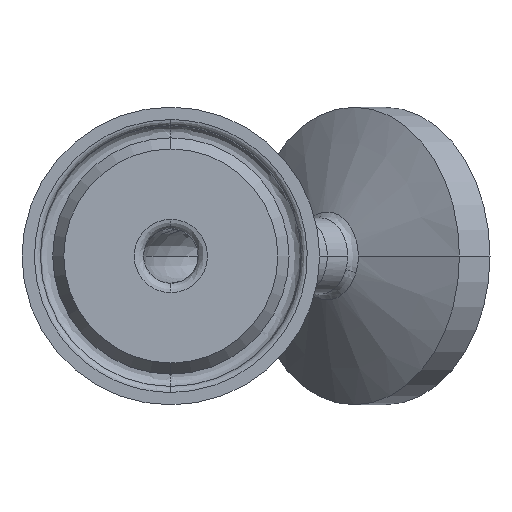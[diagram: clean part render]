
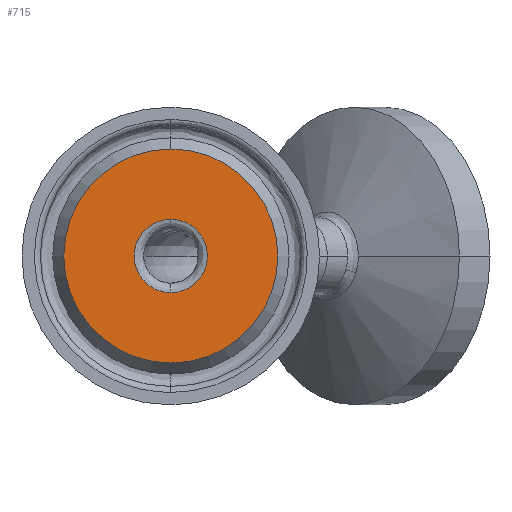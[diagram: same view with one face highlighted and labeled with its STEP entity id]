
A CAD part, front view. The second image highlights one B-rep face of the part: STEP entity #715.
In plain terms, the highlighted planar face has unit normal (0, -1, 0).
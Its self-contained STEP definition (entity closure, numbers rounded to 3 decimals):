
#43 = VERTEX_POINT ( 'NONE', #378 ) ;
#44 = CARTESIAN_POINT ( 'NONE',  ( 0., -9.213, -3.073 ) ) ;
#180 = EDGE_LOOP ( 'NONE', ( #1696, #1541 ) ) ;
#191 =( BOUNDED_CURVE ( )  B_SPLINE_CURVE ( 3, ( #408, #716, #685, #1954 ),
 .UNSPECIFIED., .F., .F. ) 
 B_SPLINE_CURVE_WITH_KNOTS ( ( 4, 4 ),
 ( 0., 1. ),
 .UNSPECIFIED. ) 
 CURVE ( )  GEOMETRIC_REPRESENTATION_ITEM ( )  RATIONAL_B_SPLINE_CURVE ( ( 1., 0.333, 0.333, 1. ) ) 
 REPRESENTATION_ITEM ( '' )  );
#233 = ORIENTED_EDGE ( 'NONE', *, *, #354, .F. ) ;
#268 = DIRECTION ( 'NONE',  ( 0., 0., 1. ) ) ;
#273 = AXIS2_PLACEMENT_3D ( 'NONE', #1429, #1529, #1420 ) ;
#298 = EDGE_LOOP ( 'NONE', ( #233, #392 ) ) ;
#354 = EDGE_CURVE ( 'NONE', #43, #1326, #1362, .T. ) ;
#376 = CIRCLE ( 'NONE', #1882, 8.987 ) ;
#378 = CARTESIAN_POINT ( 'NONE',  ( 0., -9.213, 8.987 ) ) ;
#392 = ORIENTED_EDGE ( 'NONE', *, *, #691, .F. ) ;
#408 = CARTESIAN_POINT ( 'NONE',  ( 0., -9.213, -3.073 ) ) ;
#422 = CARTESIAN_POINT ( 'NONE',  ( 0., -9.213, 3.073 ) ) ;
#579 = VERTEX_POINT ( 'NONE', #1873 ) ;
#685 = CARTESIAN_POINT ( 'NONE',  ( 6.147, -9.213, 3.073 ) ) ;
#691 = EDGE_CURVE ( 'NONE', #1326, #43, #376, .T. ) ;
#715 = ADVANCED_FACE ( 'NONE', ( #1937, #1118 ), #1669, .F. ) ;
#716 = CARTESIAN_POINT ( 'NONE',  ( 6.147, -9.213, -3.073 ) ) ;
#719 = VERTEX_POINT ( 'NONE', #1039 ) ;
#749 = CARTESIAN_POINT ( 'NONE',  ( 0., -9.213, 0. ) ) ;
#900 = CARTESIAN_POINT ( 'NONE',  ( -6.147, -9.213, -3.073 ) ) ;
#1016 = CARTESIAN_POINT ( 'NONE',  ( -6.147, -9.213, 3.073 ) ) ;
#1029 = AXIS2_PLACEMENT_3D ( 'NONE', #749, #1224, #268 ) ;
#1039 = CARTESIAN_POINT ( 'NONE',  ( 0., -9.213, -3.073 ) ) ;
#1118 = FACE_BOUND ( 'NONE', #180, .T. ) ;
#1224 = DIRECTION ( 'NONE',  ( 0., 1., 0. ) ) ;
#1326 = VERTEX_POINT ( 'NONE', #1612 ) ;
#1362 = CIRCLE ( 'NONE', #1029, 8.987 ) ;
#1387 = DIRECTION ( 'NONE',  ( 0., 0., 1. ) ) ;
#1419 =( BOUNDED_CURVE ( )  B_SPLINE_CURVE ( 3, ( #422, #1016, #900, #44 ),
 .UNSPECIFIED., .F., .T. ) 
 B_SPLINE_CURVE_WITH_KNOTS ( ( 4, 4 ),
 ( 0., 1. ),
 .UNSPECIFIED. ) 
 CURVE ( )  GEOMETRIC_REPRESENTATION_ITEM ( )  RATIONAL_B_SPLINE_CURVE ( ( 1., 0.333, 0.333, 1. ) ) 
 REPRESENTATION_ITEM ( '' )  );
#1420 = DIRECTION ( 'NONE',  ( 0., 0., 1. ) ) ;
#1429 = CARTESIAN_POINT ( 'NONE',  ( -3.073, -9.213, 0. ) ) ;
#1512 = DIRECTION ( 'NONE',  ( 0., 1., 0. ) ) ;
#1522 = CARTESIAN_POINT ( 'NONE',  ( 0., -9.213, 0. ) ) ;
#1529 = DIRECTION ( 'NONE',  ( 0., 1., 0. ) ) ;
#1541 = ORIENTED_EDGE ( 'NONE', *, *, #1795, .F. ) ;
#1612 = CARTESIAN_POINT ( 'NONE',  ( 0., -9.213, -8.987 ) ) ;
#1669 = PLANE ( 'NONE',  #273 ) ;
#1696 = ORIENTED_EDGE ( 'NONE', *, *, #1990, .F. ) ;
#1795 = EDGE_CURVE ( 'NONE', #579, #719, #1419, .T. ) ;
#1873 = CARTESIAN_POINT ( 'NONE',  ( 0., -9.213, 3.073 ) ) ;
#1882 = AXIS2_PLACEMENT_3D ( 'NONE', #1522, #1512, #1387 ) ;
#1937 = FACE_OUTER_BOUND ( 'NONE', #298, .T. ) ;
#1954 = CARTESIAN_POINT ( 'NONE',  ( 0., -9.213, 3.073 ) ) ;
#1990 = EDGE_CURVE ( 'NONE', #719, #579, #191, .T. ) ;
